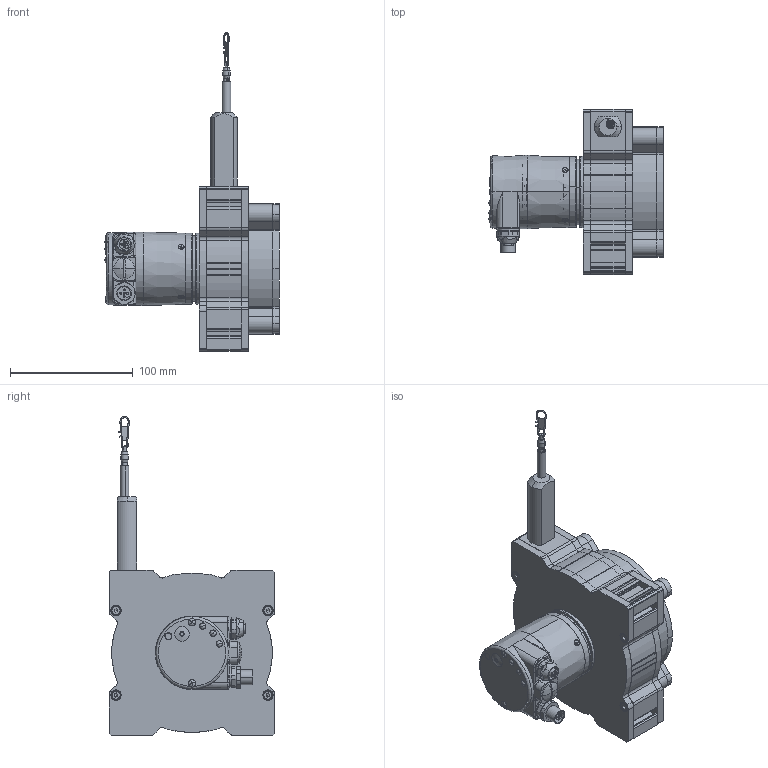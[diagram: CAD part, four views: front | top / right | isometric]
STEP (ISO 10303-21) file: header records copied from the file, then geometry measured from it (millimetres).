
FILE_DESCRIPTION (( 'STEP AP214' ), '1' );
FILE_NAME ('D8.4D1.0800.6822.2113.STEP', '2009-05-12T09:00:42', ( 'admin' ), ( 'Fritz Kübler GmbH' ), 'SwSTEP 2.0', 'SolidWorks 2009', '' );
FILE_SCHEMA (( 'AUTOMOTIVE_DESIGN' ));
Length unit declared in the file: millimetre
Products named in the file (1): D8.4D1.0800.6822.2113
Bounding box: 142.15 x 135 x 260.32 mm (x, y, z)
Volume: 441462.1 mm3; surface area: 233949.4 mm2
Topology: 38 solids, 38 shells, 2223 faces, 5733 edges, 3627 vertices
Faces by surface type: cylinder 980, plane 692, cone 303, torus 167, bspline 48, sphere 33
Entity records: 97247 total; most frequent: CARTESIAN_POINT 17244, DIRECTION 12215, ORIENTED_EDGE 11286, EDGE_CURVE 5643, AXIS2_PLACEMENT_3D 4841, VERTEX_POINT 3614, CIRCLE 2665, VECTOR 2533
